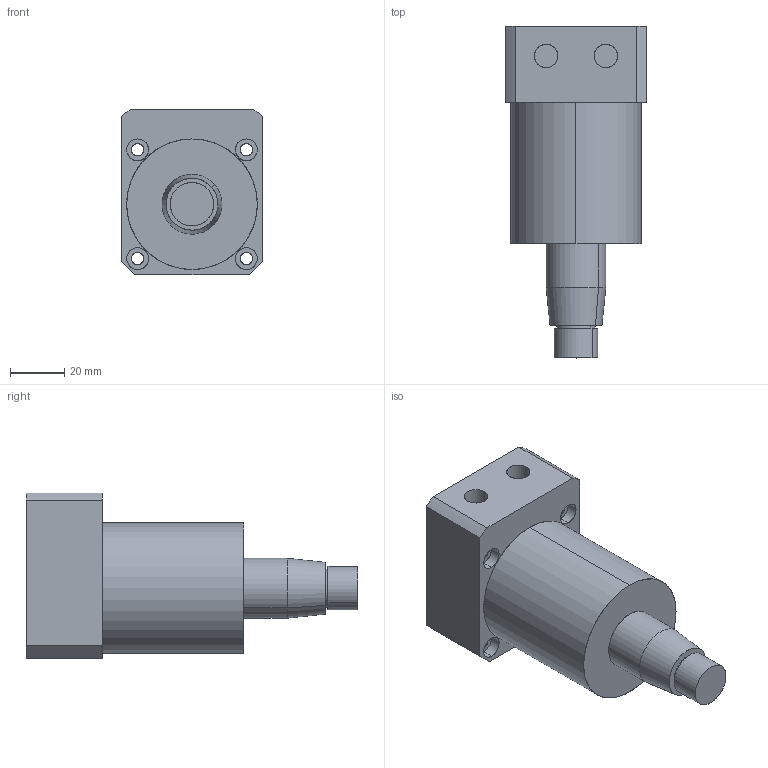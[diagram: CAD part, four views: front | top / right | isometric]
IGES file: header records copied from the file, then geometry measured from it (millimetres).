
Start section: SolidWorks IGES file using analytic representation for surfaces
Global section: file name: E:\karthik\CLASYS\Pneumatic Swing cylinders\Bottom cyl 0312\0312-0481\pneu 48.IGS; native system: SolidWorks 2010; preprocessor: SolidWorks 2010; author: karthik; date: 130914.165002; units: millimetre
Bounding box: 52 x 122 x 61 mm (x, y, z)
Surface area: 26450.4 mm2 (no closed solid volume)
Topology: 0 solids, 0 shells, 65 faces, 1304 edges, 1304 vertices
Faces by surface type: revolution 44, bspline 21
